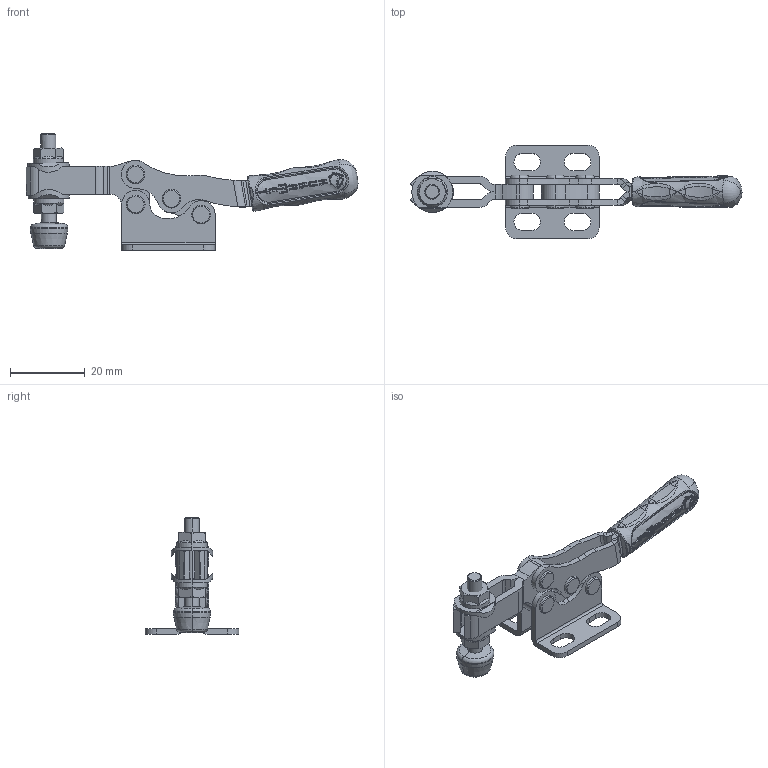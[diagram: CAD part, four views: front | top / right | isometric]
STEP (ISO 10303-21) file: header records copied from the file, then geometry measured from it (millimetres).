
FILE_DESCRIPTION(('STEP AP203'),'1');
FILE_NAME('111-0.stp','2023-09-08T07:29:52',('TraceParts'),('TraceParts S.A.'),'Spatial InterOp 3D',' ',' ');
FILE_SCHEMA(('CONFIG_CONTROL_DESIGN'));
Length unit declared in the file: millimetre
Products named in the file (1): 1
Bounding box: 88.79 x 25 x 31.1 mm (x, y, z)
Volume: 6748.3 mm3; surface area: 8002.9 mm2
Topology: 9 solids, 11 shells, 1399 faces, 3503 edges, 1957 vertices
Faces by surface type: bspline 598, cylinder 429, plane 304, cone 42, torus 16, sphere 6, extrusion 4
Entity records: 60979 total; most frequent: CARTESIAN_POINT 33518, ORIENTED_EDGE 6602, DIRECTION 4307, EDGE_CURVE 3301, VERTEX_POINT 1957, AXIS2_PLACEMENT_3D 1730, B_SPLINE_CURVE_WITH_KNOTS 1536, EDGE_LOOP 1462
